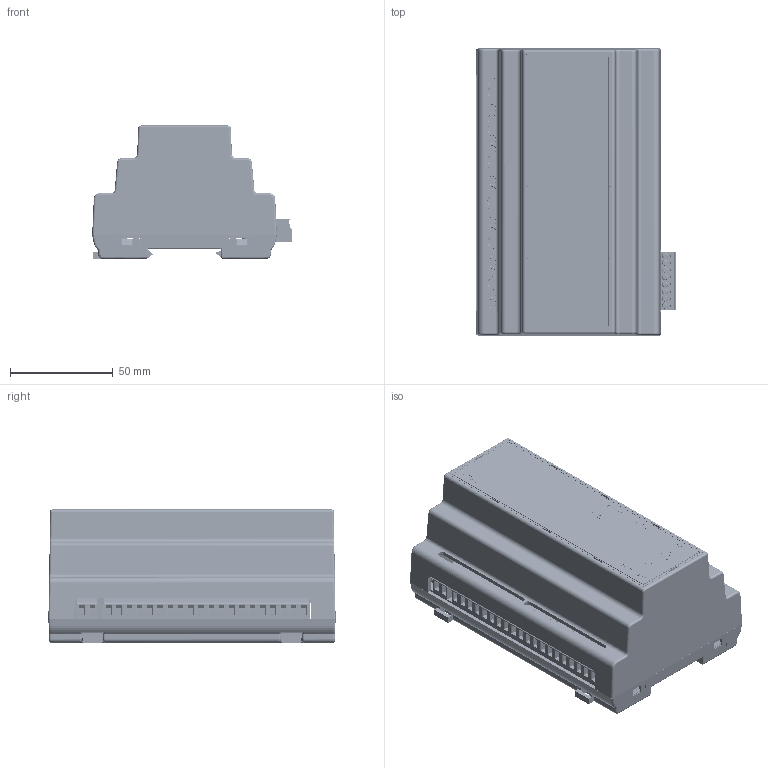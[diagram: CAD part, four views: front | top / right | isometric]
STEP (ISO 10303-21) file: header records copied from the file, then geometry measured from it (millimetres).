
FILE_DESCRIPTION(/* description */ (''),/* implementation_level */ '2;1');
FILE_NAME(/* name */ 'PS-08m 230.step',/* time_stamp */ '2026-01-24T11:56:30+01:00',/* author */ (''),/* organization */ (''),/* preprocessor_version */ 'ST-DEVELOPER v20.1',/* originating_system */ 'Autodesk Translation Framework v14.24.0.0',/* authorisation */ '');
FILE_SCHEMA (('AUTOMOTIVE_DESIGN { 1 0 10303 214 3 1 1 }'));
Products named in the file (40): OP-1017backup; OP-1017_A; OP-1017_B_3; OP-1017_D; NAK_1017_D; ST-1007_2_0_E; PCB Component; Board; VP31; B_SMD_WA; TO252; 317TS; 1X12; SOT23; 15EDG-3.5-8P(H-Vwt); 15EDGRC-3.5; 15EDGRC-3.5_1; 15EDGRC-3.5-thickening; 15EDGRC-3.5-PIN; 15EDGK-3.5; 15EDGK-3.5_1; 15EDGK-3.5_top-cap; 15EDGK-3.5_spring; 15EDGK-3.5_screw; 15EDGK-3.5_klamper; SOD80C; SOT23@1; R0805; C1206; E5-10,5; TE5; FIDUCIAL_G10; ANGLE-SW1-16_1; HF46F; 140CLH-1010; Skręcana łączka_1pin; Dystans M3-01; PS-08m230 naklejka; OP-267-D; S_023.05.000.00064 /...63
Assembly tree (137 placements, depth 6):
  OP-1017backup
    OP-1017_A
    OP-1017_B_3
    OP-1017_D
    NAK_1017_D
    OP-267-D  x2
    S_023.05.000.00064 /...63  x4
    ST-1007_2_0_E
      PCB Component
        Board
        SOD80C  x8
        SOT23@1  x8
        R0805  x8
        C1206  x2
        E5-10,5  x2
        VP31
        B_SMD_WA
        TE5  x2
        FIDUCIAL_G10  x6
        ANGLE-SW1-16_1  x6
        HF46F  x8
        TO252
        317TS
        1X12
        SOT23
        140CLH-1010  x4
        Skręcana łączka_1pin  x22
        15EDG-3.5-8P(H-Vwt)
          15EDGRC-3.5
            15EDGRC-3.5_1
            15EDGRC-3.5-PIN  x8
            15EDGRC-3.5-thickening  x2
          15EDGK-3.5
            15EDGK-3.5_klamper  x8
            15EDGK-3.5_screw  x8
            15EDGK-3.5_spring  x8
            15EDGK-3.5_1
            15EDGK-3.5_top-cap
    Dystans M3-01
    PS-08m230 naklejka
Bounding box: 97.3 x 140 x 65.1 mm (x, y, z)
Volume: 137064.7 mm3; surface area: 187625.1 mm2
Topology: 176 solids, 176 shells, 10008 faces, 27336 edges, 18040 vertices
Faces by surface type: plane 7885, cylinder 1044, bspline 864, cone 145, torus 62, sphere 8
Full cylindrical faces by diameter (mm): 0.5 x62, 0.6 x64, 0.9 x16, 1 x44, 1.016 x16, 1.1 x3, 1.2 x24, 1.3 x8, 1.321 x4, 1.5 x8, 1.6 x11, 1.8 x16, 2 x16, 2.78 x8, 2.8 x8, 2.9 x4, 2.944 x1, 3 x7, 3.2 x2, 3.5 x5, 3.7 x22, 4 x22, 4.849 x1, 7.6 x2, 10 x8
Entity records: 247190 total; most frequent: CARTESIAN_POINT 62458, ORIENTED_EDGE 39698, DIRECTION 33830, EDGE_CURVE 19849, LINE 16720, VECTOR 16720, VERTEX_POINT 13093, AXIS2_PLACEMENT_3D 8555
